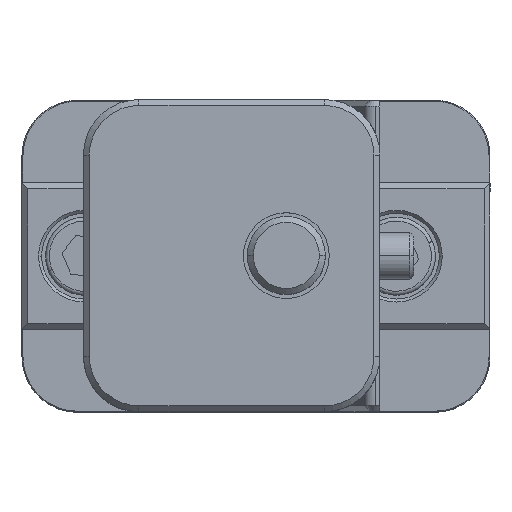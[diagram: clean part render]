
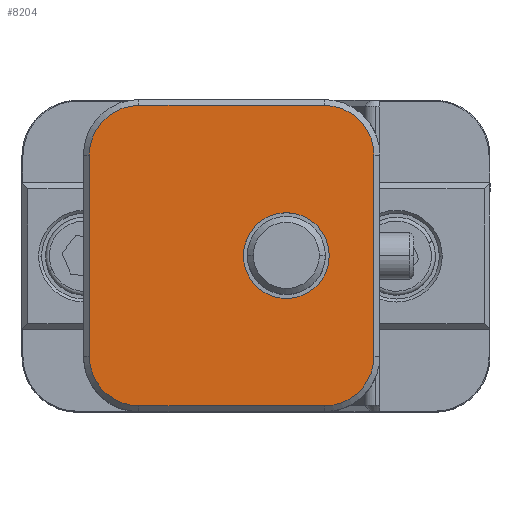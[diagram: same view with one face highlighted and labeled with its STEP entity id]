
A CAD part, top view. The second image highlights one B-rep face of the part: STEP entity #8204.
In plain terms, the highlighted planar face has unit normal (0, 0, 1).
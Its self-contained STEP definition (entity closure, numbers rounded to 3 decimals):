
#7749 = ORIENTED_EDGE ( 'NONE', *, *, #8185, .T. ) ;
#8121 = EDGE_LOOP ( 'NONE', ( #8122, #8126, #7749, #8187, #8190, #8193, #8196, #8199 ) ) ;
#8122 = ORIENTED_EDGE ( 'NONE', *, *, #8123, .T. ) ;
#8123 = EDGE_CURVE ( 'NONE', #8124, #8125, #15199, .T. ) ;
#8124 = VERTEX_POINT ( 'NONE', #15195 ) ;
#8125 = VERTEX_POINT ( 'NONE', #15194 ) ;
#8126 = ORIENTED_EDGE ( 'NONE', *, *, #8127, .T. ) ;
#8127 = EDGE_CURVE ( 'NONE', #8125, #8128, #15193, .T. ) ;
#8128 = VERTEX_POINT ( 'NONE', #15188 ) ;
#8132 = VERTEX_POINT ( 'NONE', #15182 ) ;
#8134 = EDGE_CURVE ( 'NONE', #8135, #8132, #15181, .T. ) ;
#8135 = VERTEX_POINT ( 'NONE', #15176 ) ;
#8170 = EDGE_CURVE ( 'NONE', #8198, #8124, #15299, .T. ) ;
#8171 = EDGE_LOOP ( 'NONE', ( #8172, #8173 ) ) ;
#8172 = ORIENTED_EDGE ( 'NONE', *, *, #8134, .T. ) ;
#8173 = ORIENTED_EDGE ( 'NONE', *, *, #8174, .T. ) ;
#8174 = EDGE_CURVE ( 'NONE', #8132, #8135, #15294, .T. ) ;
#8185 = EDGE_CURVE ( 'NONE', #8128, #8186, #15272, .T. ) ;
#8186 = VERTEX_POINT ( 'NONE', #15331 ) ;
#8187 = ORIENTED_EDGE ( 'NONE', *, *, #8188, .T. ) ;
#8188 = EDGE_CURVE ( 'NONE', #8186, #8189, #15330, .T. ) ;
#8189 = VERTEX_POINT ( 'NONE', #15325 ) ;
#8190 = ORIENTED_EDGE ( 'NONE', *, *, #8191, .T. ) ;
#8191 = EDGE_CURVE ( 'NONE', #8189, #8192, #15324, .T. ) ;
#8192 = VERTEX_POINT ( 'NONE', #15320 ) ;
#8193 = ORIENTED_EDGE ( 'NONE', *, *, #8194, .T. ) ;
#8194 = EDGE_CURVE ( 'NONE', #8192, #8195, #15319, .T. ) ;
#8195 = VERTEX_POINT ( 'NONE', #15314 ) ;
#8196 = ORIENTED_EDGE ( 'NONE', *, *, #8197, .T. ) ;
#8197 = EDGE_CURVE ( 'NONE', #8195, #8198, #15313, .T. ) ;
#8198 = VERTEX_POINT ( 'NONE', #15309 ) ;
#8199 = ORIENTED_EDGE ( 'NONE', *, *, #8170, .T. ) ;
#8204 = ADVANCED_FACE ( 'NONE', ( #15363, #15362 ), #15361, .T. ) ;
#15176 = CARTESIAN_POINT ( 'NONE',  ( -6.49, 0., 0. ) ) ;
#15177 = DIRECTION ( 'NONE',  ( 1., 0., 0. ) ) ;
#15178 = DIRECTION ( 'NONE',  ( 0., 0., -1. ) ) ;
#15179 = CARTESIAN_POINT ( 'NONE',  ( -11.989, 0., 0. ) ) ;
#15180 = AXIS2_PLACEMENT_3D ( 'NONE', #15179, #15178, #15177 ) ;
#15181 = CIRCLE ( 'NONE', #15180, 5.499 ) ;
#15182 = CARTESIAN_POINT ( 'NONE',  ( -17.488, 0., 0. ) ) ;
#15188 = CARTESIAN_POINT ( 'NONE',  ( -7.112, 19.25, 0. ) ) ;
#15189 = DIRECTION ( 'NONE',  ( 1., 0., 0. ) ) ;
#15190 = DIRECTION ( 'NONE',  ( 0., 0., 1. ) ) ;
#15191 = CARTESIAN_POINT ( 'NONE',  ( -7.112, 12.888, 0. ) ) ;
#15192 = AXIS2_PLACEMENT_3D ( 'NONE', #15191, #15190, #15189 ) ;
#15193 = CIRCLE ( 'NONE', #15192, 6.362 ) ;
#15194 = CARTESIAN_POINT ( 'NONE',  ( -0.75, 12.888, 0. ) ) ;
#15195 = CARTESIAN_POINT ( 'NONE',  ( -0.75, -12.888, 0. ) ) ;
#15196 = DIRECTION ( 'NONE',  ( 0., 1., 0. ) ) ;
#15197 = VECTOR ( 'NONE', #15196, 1000. ) ;
#15198 = CARTESIAN_POINT ( 'NONE',  ( -0.75, 12.888, 0. ) ) ;
#15199 = LINE ( 'NONE', #15198, #15197 ) ;
#15269 = DIRECTION ( 'NONE',  ( -1., 0., 0. ) ) ;
#15270 = VECTOR ( 'NONE', #15269, 1000. ) ;
#15271 = CARTESIAN_POINT ( 'NONE',  ( -37.998, 19.25, 0. ) ) ;
#15272 = LINE ( 'NONE', #15271, #15270 ) ;
#15291 = DIRECTION ( 'NONE',  ( 1., 0., 0. ) ) ;
#15292 = DIRECTION ( 'NONE',  ( 0., 0., -1. ) ) ;
#15293 = AXIS2_PLACEMENT_3D ( 'NONE', #15300, #15292, #15291 ) ;
#15294 = CIRCLE ( 'NONE', #15293, 5.499 ) ;
#15295 = DIRECTION ( 'NONE',  ( 1., 0., 0. ) ) ;
#15296 = DIRECTION ( 'NONE',  ( 0., 0., 1. ) ) ;
#15297 = CARTESIAN_POINT ( 'NONE',  ( -7.112, -12.888, 0. ) ) ;
#15298 = AXIS2_PLACEMENT_3D ( 'NONE', #15297, #15296, #15295 ) ;
#15299 = CIRCLE ( 'NONE', #15298, 6.362 ) ;
#15300 = CARTESIAN_POINT ( 'NONE',  ( -11.989, 0., 0. ) ) ;
#15309 = CARTESIAN_POINT ( 'NONE',  ( -7.112, -19.25, 0. ) ) ;
#15310 = DIRECTION ( 'NONE',  ( 1., 0., 0. ) ) ;
#15311 = VECTOR ( 'NONE', #15310, 1000. ) ;
#15312 = CARTESIAN_POINT ( 'NONE',  ( -37.998, -19.25, 0. ) ) ;
#15313 = LINE ( 'NONE', #15312, #15311 ) ;
#15314 = CARTESIAN_POINT ( 'NONE',  ( -30.886, -19.25, 0. ) ) ;
#15315 = DIRECTION ( 'NONE',  ( 1., 0., 0. ) ) ;
#15316 = DIRECTION ( 'NONE',  ( 0., 0., 1. ) ) ;
#15317 = CARTESIAN_POINT ( 'NONE',  ( -30.886, -12.888, 0. ) ) ;
#15318 = AXIS2_PLACEMENT_3D ( 'NONE', #15317, #15316, #15315 ) ;
#15319 = CIRCLE ( 'NONE', #15318, 6.362 ) ;
#15320 = CARTESIAN_POINT ( 'NONE',  ( -37.248, -12.888, 0. ) ) ;
#15321 = DIRECTION ( 'NONE',  ( 0., -1., 0. ) ) ;
#15322 = VECTOR ( 'NONE', #15321, 1000. ) ;
#15323 = CARTESIAN_POINT ( 'NONE',  ( -37.248, -20., 0. ) ) ;
#15324 = LINE ( 'NONE', #15323, #15322 ) ;
#15325 = CARTESIAN_POINT ( 'NONE',  ( -37.248, 12.888, 0. ) ) ;
#15326 = DIRECTION ( 'NONE',  ( 1., 0., 0. ) ) ;
#15327 = DIRECTION ( 'NONE',  ( 0., 0., 1. ) ) ;
#15328 = CARTESIAN_POINT ( 'NONE',  ( -30.886, 12.888, 0. ) ) ;
#15329 = AXIS2_PLACEMENT_3D ( 'NONE', #15328, #15327, #15326 ) ;
#15330 = CIRCLE ( 'NONE', #15329, 6.362 ) ;
#15331 = CARTESIAN_POINT ( 'NONE',  ( -30.886, 19.25, 0. ) ) ;
#15357 = DIRECTION ( 'NONE',  ( 1., 0., 0. ) ) ;
#15358 = DIRECTION ( 'NONE',  ( 0., 0., 1. ) ) ;
#15359 = CARTESIAN_POINT ( 'NONE',  ( -37.998, -20., 0. ) ) ;
#15360 = AXIS2_PLACEMENT_3D ( 'NONE', #15359, #15358, #15357 ) ;
#15361 = PLANE ( 'NONE',  #15360 ) ;
#15362 = FACE_BOUND ( 'NONE', #8171, .T. ) ;
#15363 = FACE_OUTER_BOUND ( 'NONE', #8121, .T. ) ;
